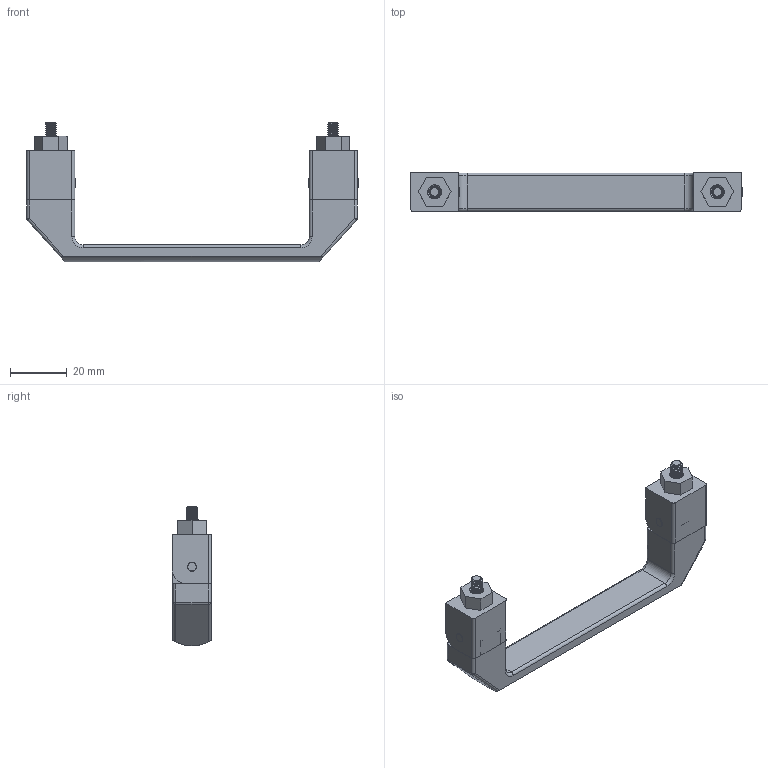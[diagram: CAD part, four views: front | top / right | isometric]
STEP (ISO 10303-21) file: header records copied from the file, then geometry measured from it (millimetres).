
FILE_DESCRIPTION (( 'STEP AP214' ), '1' );
FILE_NAME ('蚾饜极1.STEP', '2023-06-28T01:50:17', ( 'Windows 蚚誧' ), ( '' ), 'SwSTEP 2.0', 'SolidWorks 2019', '' );
FILE_SCHEMA (( 'AUTOMOTIVE_DESIGN' ));
Length unit declared in the file: millimetre
Products named in the file (4): 參忒; 蚾饜极1; 錨璃1; M6蹟譫
Assembly tree (5 placements, depth 2):
  蚾饜极1
    參忒
    錨璃1  x2
    M6蹟譫  x2
Bounding box: 117.5 x 14 x 49.5 mm (x, y, z)
Volume: 22438 mm3; surface area: 11945.7 mm2
Topology: 9 solids, 9 shells, 229 faces, 605 edges, 390 vertices
Faces by surface type: cylinder 134, plane 69, bspline 14, torus 4, sphere 4, cone 4
Entity records: 7495 total; most frequent: CARTESIAN_POINT 3681, ORIENTED_EDGE 740, DIRECTION 628, EDGE_CURVE 370, VERTEX_POINT 238, AXIS2_PLACEMENT_3D 227, LINE 174, VECTOR 174
